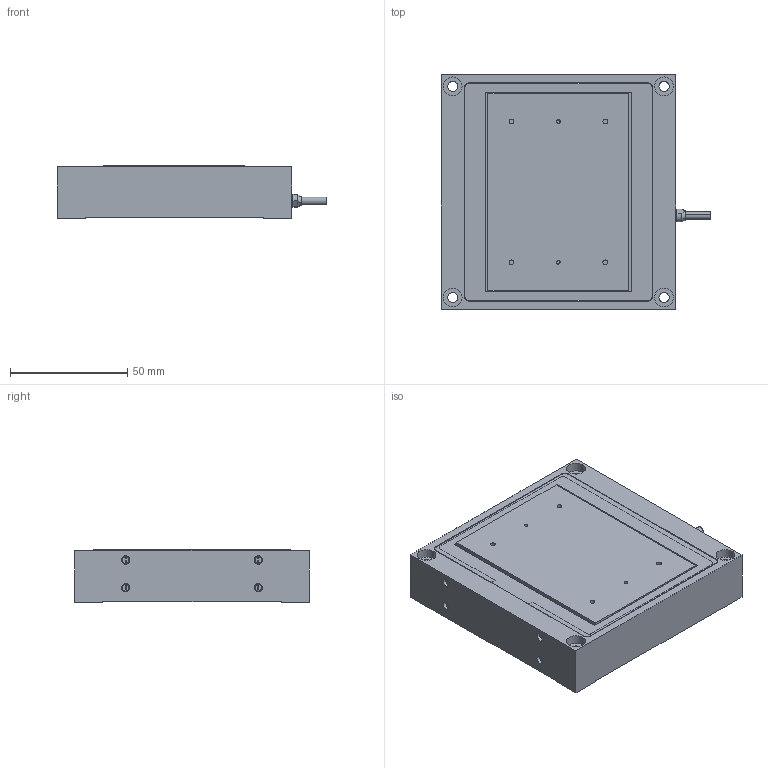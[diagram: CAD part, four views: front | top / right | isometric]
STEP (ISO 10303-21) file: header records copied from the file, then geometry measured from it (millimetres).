
FILE_DESCRIPTION (( 'STEP AP203' ), '1' );
FILE_NAME ('P-629.1XX.STEP', '2014-02-12T13:14:08', ( 'test' ), ( '' ), 'SwSTEP 2.0', 'SolidWorks 2012', '' );
FILE_SCHEMA (( 'CONFIG_CONTROL_DESIGN' ));
Length unit declared in the file: millimetre
Products named in the file (1): P-629.1XX
Bounding box: 115 x 100 x 22.5 mm (x, y, z)
Volume: 215766.9 mm3; surface area: 56512.8 mm2
Topology: 17 solids, 17 shells, 473 faces, 1140 edges, 701 vertices
Faces by surface type: cylinder 169, plane 162, cone 110, torus 32
Entity records: 14542 total; most frequent: CARTESIAN_POINT 3273, DIRECTION 2487, ORIENTED_EDGE 2216, EDGE_CURVE 1108, AXIS2_PLACEMENT_3D 987, VERTEX_POINT 701, EDGE_LOOP 545, CIRCLE 513
